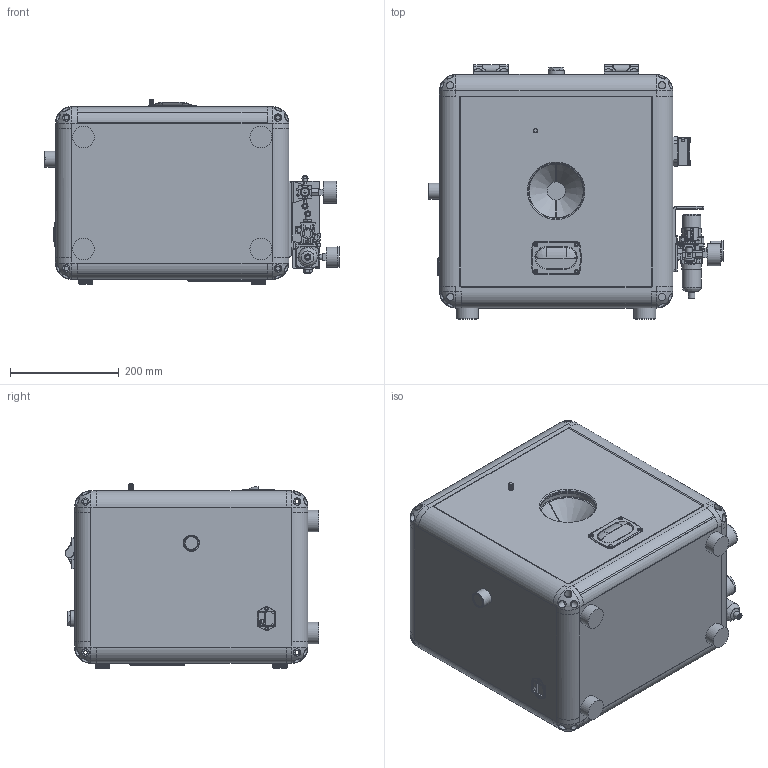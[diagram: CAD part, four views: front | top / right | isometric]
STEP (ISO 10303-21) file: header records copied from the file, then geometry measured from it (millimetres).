
FILE_DESCRIPTION (( 'STEP AP203' ), '1' );
FILE_NAME ('10.STEP', '2024-05-23T20:12:19', ( '' ), ( '' ), 'SwSTEP 2.0', 'SolidWorks 2023', '' );
FILE_SCHEMA (( 'CONFIG_CONTROL_DESIGN' ));
Products named in the file (1): 10
Bounding box: 543.38 x 467.74 x 339.2 mm (x, y, z)
Volume: 57638798.3 mm3; surface area: 1214984.8 mm2
Topology: 1 solids, 13 shells, 3862 faces, 10386 edges, 6694 vertices
Faces by surface type: plane 2071, cylinder 1379, bspline 167, cone 148, torus 77, sphere 20
Full cylindrical faces by diameter (mm): 3 x1, 3.81 x4, 4 x4, 4.5 x6, 5.055 x4, 5.5 x1, 6 x8, 6.3 x2, 6.35 x13, 6.8 x3, 7 x8, 7.15 x3, 7.62 x1, 7.85 x2, 8 x1, 8.28 x20, 8.89 x2, 9.728 x1, 10 x3, 10.05 x6, 11.1 x3, 12 x1, 13 x1, 13.411 x48, 14.29 x2, 15 x1, 16.2 x1, 18 x2, 24.1 x1, 24.692 x4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
Entity records: 134073 total; most frequent: CARTESIAN_POINT 42212, ORIENTED_EDGE 19952, DIRECTION 18376, EDGE_CURVE 9976, VERTEX_POINT 6556, AXIS2_PLACEMENT_3D 6511, LINE 5354, VECTOR 5354
